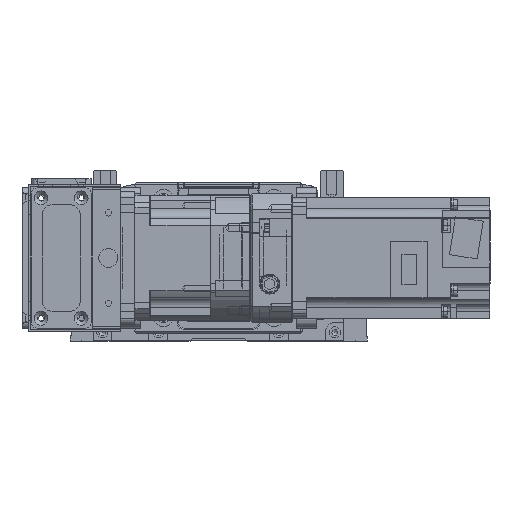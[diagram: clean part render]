
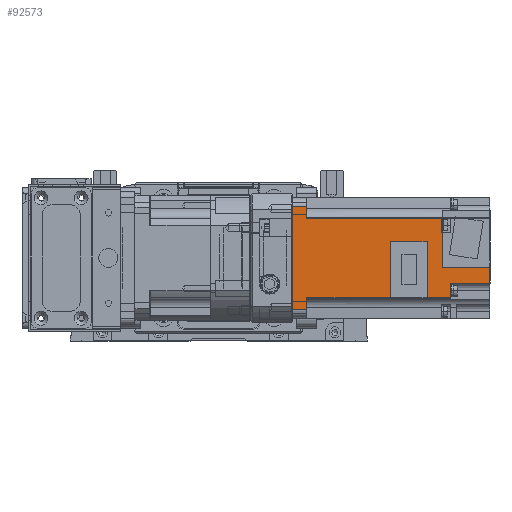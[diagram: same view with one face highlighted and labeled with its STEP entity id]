
A CAD part, front view. The second image highlights one B-rep face of the part: STEP entity #92573.
In plain terms, the highlighted planar face has unit normal (0, -1, 0).
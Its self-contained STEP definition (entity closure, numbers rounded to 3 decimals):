
#7461=FACE_OUTER_BOUND('',#12873,.T.);
#12873=EDGE_LOOP('',(#76354,#76355,#76356,#76357,#76358,#76359,#76360,#76361,
#76362,#76363,#76364,#76365,#76366,#76367,#76368,#76369,#76370,#76371,#76372,
#76373));
#22683=LINE('',#150449,#32494);
#22714=LINE('',#150569,#32525);
#22717=LINE('',#150580,#32528);
#22757=LINE('',#150695,#32568);
#22818=LINE('',#150905,#32629);
#22819=LINE('',#150910,#32630);
#22820=LINE('',#150912,#32631);
#22821=LINE('',#150913,#32632);
#22822=LINE('',#150915,#32633);
#22823=LINE('',#150917,#32634);
#22824=LINE('',#150919,#32635);
#22825=LINE('',#150921,#32636);
#22826=LINE('',#150923,#32637);
#22827=LINE('',#150925,#32638);
#22828=LINE('',#150927,#32639);
#22829=LINE('',#150929,#32640);
#22830=LINE('',#150930,#32641);
#22831=LINE('',#150932,#32642);
#22832=LINE('',#150934,#32643);
#22833=LINE('',#150935,#32644);
#32494=VECTOR('',#119560,51.);
#32525=VECTOR('',#119663,3.41);
#32528=VECTOR('',#119672,2.444);
#32568=VECTOR('',#119774,7.8);
#32629=VECTOR('',#120009,5.941);
#32630=VECTOR('',#120016,67.3);
#32631=VECTOR('',#120019,0.905);
#32632=VECTOR('',#120020,7.);
#32633=VECTOR('',#120021,7.);
#32634=VECTOR('',#120022,5.941);
#32635=VECTOR('',#120023,41.6);
#32636=VECTOR('',#120024,27.559);
#32637=VECTOR('',#120025,18.35);
#32638=VECTOR('',#120026,27.559);
#32639=VECTOR('',#120027,11.85);
#32640=VECTOR('',#120028,7.059);
#32641=VECTOR('',#120029,19.5);
#32642=VECTOR('',#120030,23.5);
#32643=VECTOR('',#120031,17.5);
#32644=VECTOR('',#120032,0.5);
#42653=VERTEX_POINT('',#150446);
#42654=VERTEX_POINT('',#150448);
#42704=VERTEX_POINT('',#150563);
#42706=VERTEX_POINT('',#150566);
#42707=VERTEX_POINT('',#150568);
#42712=VERTEX_POINT('',#150578);
#42755=VERTEX_POINT('',#150692);
#42756=VERTEX_POINT('',#150694);
#42817=VERTEX_POINT('',#150902);
#42818=VERTEX_POINT('',#150904);
#42820=VERTEX_POINT('',#150914);
#42821=VERTEX_POINT('',#150916);
#42822=VERTEX_POINT('',#150918);
#42823=VERTEX_POINT('',#150920);
#42824=VERTEX_POINT('',#150922);
#42825=VERTEX_POINT('',#150924);
#42826=VERTEX_POINT('',#150926);
#42827=VERTEX_POINT('',#150928);
#42828=VERTEX_POINT('',#150931);
#42829=VERTEX_POINT('',#150933);
#54323=EDGE_CURVE('',#42653,#42654,#22683,.T.);
#54382=EDGE_CURVE('',#42706,#42707,#22714,.T.);
#54388=EDGE_CURVE('',#42712,#42704,#22717,.T.);
#54446=EDGE_CURVE('',#42755,#42756,#22757,.T.);
#54550=EDGE_CURVE('',#42818,#42817,#22818,.T.);
#54553=EDGE_CURVE('',#42818,#42712,#22819,.T.);
#54554=EDGE_CURVE('',#42704,#42706,#22820,.T.);
#54555=EDGE_CURVE('',#42817,#42654,#22821,.T.);
#54556=EDGE_CURVE('',#42653,#42820,#22822,.T.);
#54557=EDGE_CURVE('',#42821,#42820,#22823,.T.);
#54558=EDGE_CURVE('',#42821,#42822,#22824,.T.);
#54559=EDGE_CURVE('',#42822,#42823,#22825,.T.);
#54560=EDGE_CURVE('',#42823,#42824,#22826,.T.);
#54561=EDGE_CURVE('',#42824,#42825,#22827,.T.);
#54562=EDGE_CURVE('',#42826,#42825,#22828,.T.);
#54563=EDGE_CURVE('',#42827,#42826,#22829,.T.);
#54564=EDGE_CURVE('',#42756,#42827,#22830,.T.);
#54565=EDGE_CURVE('',#42755,#42828,#22831,.T.);
#54566=EDGE_CURVE('',#42829,#42828,#22832,.T.);
#54567=EDGE_CURVE('',#42707,#42829,#22833,.T.);
#76354=ORIENTED_EDGE('',*,*,#54554,.F.);
#76355=ORIENTED_EDGE('',*,*,#54388,.F.);
#76356=ORIENTED_EDGE('',*,*,#54553,.F.);
#76357=ORIENTED_EDGE('',*,*,#54550,.T.);
#76358=ORIENTED_EDGE('',*,*,#54555,.T.);
#76359=ORIENTED_EDGE('',*,*,#54323,.F.);
#76360=ORIENTED_EDGE('',*,*,#54556,.T.);
#76361=ORIENTED_EDGE('',*,*,#54557,.F.);
#76362=ORIENTED_EDGE('',*,*,#54558,.T.);
#76363=ORIENTED_EDGE('',*,*,#54559,.T.);
#76364=ORIENTED_EDGE('',*,*,#54560,.T.);
#76365=ORIENTED_EDGE('',*,*,#54561,.T.);
#76366=ORIENTED_EDGE('',*,*,#54562,.F.);
#76367=ORIENTED_EDGE('',*,*,#54563,.F.);
#76368=ORIENTED_EDGE('',*,*,#54564,.F.);
#76369=ORIENTED_EDGE('',*,*,#54446,.F.);
#76370=ORIENTED_EDGE('',*,*,#54565,.T.);
#76371=ORIENTED_EDGE('',*,*,#54566,.F.);
#76372=ORIENTED_EDGE('',*,*,#54567,.F.);
#76373=ORIENTED_EDGE('',*,*,#54382,.F.);
#87936=PLANE('',#100894);
#92573=ADVANCED_FACE('',(#7461),#87936,.F.);
#100894=AXIS2_PLACEMENT_3D('',#150911,#120017,#120018);
#119560=DIRECTION('',(1.,0.,0.));
#119663=DIRECTION('',(-1.,0.,0.));
#119672=DIRECTION('',(-1.,0.,0.));
#119774=DIRECTION('',(-1.,0.,0.));
#120009=DIRECTION('',(1.,0.,0.));
#120016=DIRECTION('',(0.,0.,-1.));
#120017=DIRECTION('center_axis',(0.,1.,0.));
#120018=DIRECTION('ref_axis',(-1.,0.,0.));
#120019=DIRECTION('',(-1.,0.,0.));
#120020=DIRECTION('',(0.,0.,1.));
#120021=DIRECTION('',(0.,0.,-1.));
#120022=DIRECTION('',(-1.,0.,0.));
#120023=DIRECTION('',(0.,0.,-1.));
#120024=DIRECTION('',(1.,0.,0.));
#120025=DIRECTION('',(0.,0.,-1.));
#120026=DIRECTION('',(-1.,0.,0.));
#120027=DIRECTION('',(0.,0.,1.));
#120028=DIRECTION('',(-1.,0.,0.));
#120029=DIRECTION('',(0.,0.,1.));
#120030=DIRECTION('',(0.,0.,1.));
#120031=DIRECTION('',(-1.,0.,0.));
#120032=DIRECTION('',(0.,0.,-1.));
#150446=CARTESIAN_POINT('',(-25.5,-30.,0.));
#150448=CARTESIAN_POINT('',(25.5,-30.,0.));
#150449=CARTESIAN_POINT('',(-25.5,-30.,0.));
#150563=CARTESIAN_POINT('',(17.115,-30.,-74.3));
#150566=CARTESIAN_POINT('',(16.21,-30.,-74.3));
#150568=CARTESIAN_POINT('',(12.8,-30.,-74.3));
#150569=CARTESIAN_POINT('',(16.21,-30.,-74.3));
#150578=CARTESIAN_POINT('',(19.559,-30.,-74.3));
#150580=CARTESIAN_POINT('',(19.559,-30.,-74.3));
#150692=CARTESIAN_POINT('',(-4.7,-30.,-98.3));
#150694=CARTESIAN_POINT('',(-12.5,-30.,-98.3));
#150695=CARTESIAN_POINT('',(-4.7,-30.,-98.3));
#150902=CARTESIAN_POINT('',(25.5,-30.,-7.));
#150904=CARTESIAN_POINT('',(19.559,-30.,-7.));
#150905=CARTESIAN_POINT('',(19.559,-30.,-7.));
#150910=CARTESIAN_POINT('',(19.559,-30.,-7.));
#150911=CARTESIAN_POINT('Origin',(0.,-30.,-3.9));
#150912=CARTESIAN_POINT('',(17.115,-30.,-74.3));
#150913=CARTESIAN_POINT('',(25.5,-30.,-7.));
#150914=CARTESIAN_POINT('',(-25.5,-30.,-7.));
#150915=CARTESIAN_POINT('',(-25.5,-30.,0.));
#150916=CARTESIAN_POINT('',(-19.559,-30.,-7.));
#150917=CARTESIAN_POINT('',(-19.559,-30.,-7.));
#150918=CARTESIAN_POINT('',(-19.559,-30.,-48.6));
#150919=CARTESIAN_POINT('',(-19.559,-30.,-7.));
#150920=CARTESIAN_POINT('',(8.,-30.,-48.6));
#150921=CARTESIAN_POINT('',(-19.559,-30.,-48.6));
#150922=CARTESIAN_POINT('',(8.,-30.,-66.95));
#150923=CARTESIAN_POINT('',(8.,-30.,-48.6));
#150924=CARTESIAN_POINT('',(-19.559,-30.,-66.95));
#150925=CARTESIAN_POINT('',(8.,-30.,-66.95));
#150926=CARTESIAN_POINT('',(-19.559,-30.,-78.8));
#150927=CARTESIAN_POINT('',(-19.559,-30.,-78.8));
#150928=CARTESIAN_POINT('',(-12.5,-30.,-78.8));
#150929=CARTESIAN_POINT('',(-12.5,-30.,-78.8));
#150930=CARTESIAN_POINT('',(-12.5,-30.,-98.3));
#150931=CARTESIAN_POINT('',(-4.7,-30.,-74.8));
#150932=CARTESIAN_POINT('',(-4.7,-30.,-98.3));
#150933=CARTESIAN_POINT('',(12.8,-30.,-74.8));
#150934=CARTESIAN_POINT('',(12.8,-30.,-74.8));
#150935=CARTESIAN_POINT('',(12.8,-30.,-74.3));
